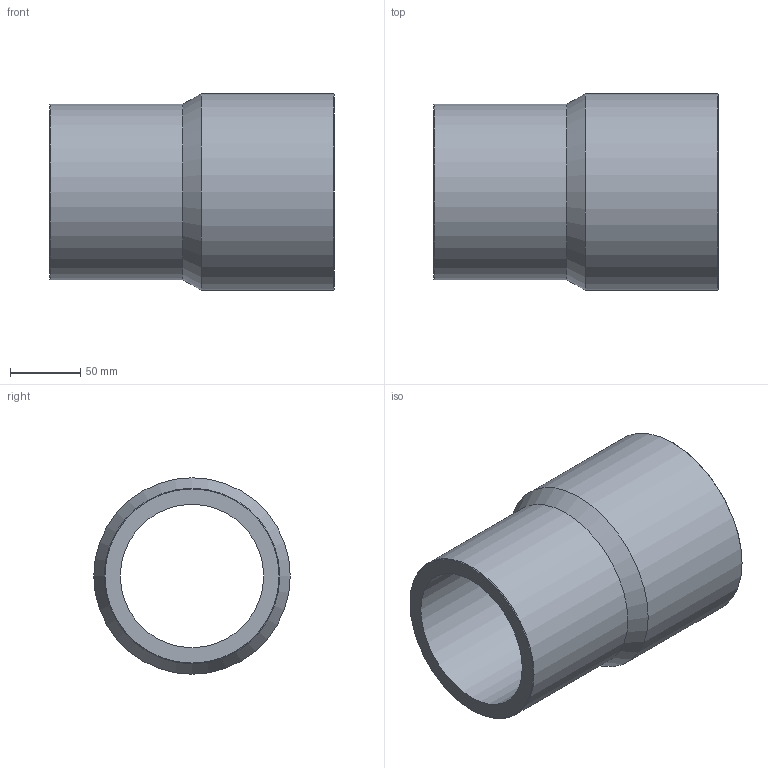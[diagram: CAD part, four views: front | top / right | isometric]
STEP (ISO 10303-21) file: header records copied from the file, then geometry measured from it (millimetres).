
FILE_DESCRIPTION(/* description */ ('Unknown'),/* implementation_level */ '2;1');
FILE_NAME(/* name */ 'RP140125C',/* time_stamp */ '2021-09-17T15:15:25+02:00',/* author */ ('Unknown'),/* organization */ ('Unknown'),/* preprocessor_version */ 'ST-DEVELOPER v16.7',/* originating_system */ 'Solid Edge',/* authorisation */ 'Unknown');
FILE_SCHEMA (('AUTOMOTIVE_DESIGN {1 0 10303 214 3 1 1}'));
Length unit declared in the file: millimetre
Products named in the file (1): RP140125C
Bounding box: 203 x 140 x 140 mm (x, y, z)
Volume: 932512.6 mm3; surface area: 163712.6 mm2
Topology: 1 solids, 1 shells, 10 faces, 19 edges, 11 vertices
Faces by surface type: cylinder 4, cone 4, plane 2
Full cylindrical faces by diameter (mm): 102.2 x1, 114.6 x1, 125 x1, 140 x1
Entity records: 238 total; most frequent: DIRECTION 42, CARTESIAN_POINT 31, AXIS2_PLACEMENT_3D 21, ORIENTED_EDGE 20, EDGE_LOOP 20, FACE_BOUND 20, EDGE_CURVE 10, VERTEX_POINT 10
